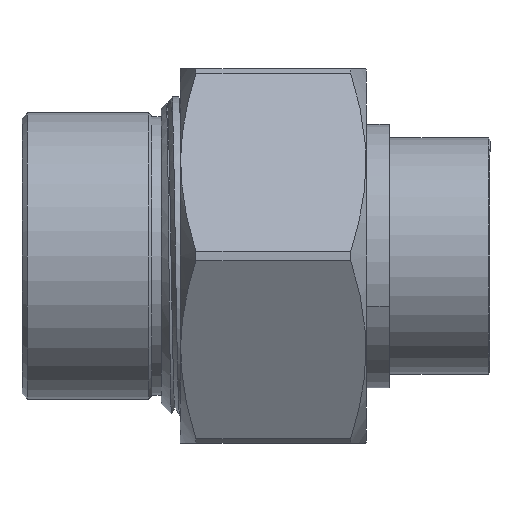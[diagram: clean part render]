
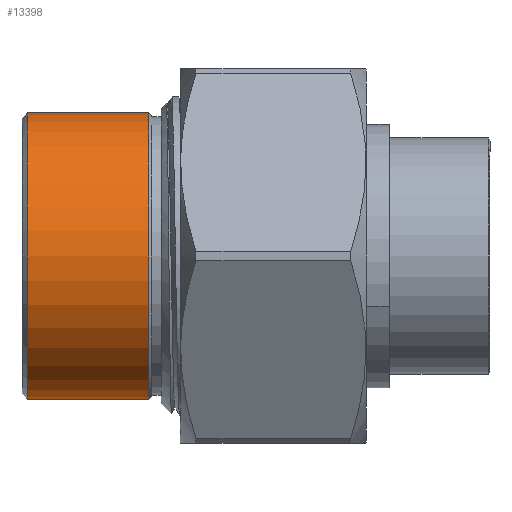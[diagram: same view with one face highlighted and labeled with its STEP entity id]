
A CAD part, front view. The second image highlights one B-rep face of the part: STEP entity #13398.
In plain terms, the highlighted cylindrical face has radius 15.75 mm (diameter 31.5 mm), a partial arc.
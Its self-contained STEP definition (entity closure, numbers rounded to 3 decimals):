
#7678 = VERTEX_POINT('',#7679);
#7679 = CARTESIAN_POINT('',(-107.899,12.679,27.86));
#7693 = CONICAL_SURFACE('',#7694,15.75,0.785);
#7694 = AXIS2_PLACEMENT_3D('',#7695,#7696,#7697);
#7695 = CARTESIAN_POINT('',(-107.899,12.679,12.11));
#7696 = DIRECTION('',(1.,0.,0.));
#7697 = DIRECTION('',(0.,0.,-1.));
#7706 = VERTEX_POINT('',#7707);
#7707 = CARTESIAN_POINT('',(-107.899,12.679,-3.64));
#7722 = CYLINDRICAL_SURFACE('',#7723,15.75);
#7723 = AXIS2_PLACEMENT_3D('',#7724,#7725,#7726);
#7724 = CARTESIAN_POINT('',(-61.304,12.679,12.11));
#7725 = DIRECTION('',(1.,0.,0.));
#7726 = DIRECTION('',(0.,0.,-1.));
#9546 = VERTEX_POINT('',#9547);
#9547 = CARTESIAN_POINT('',(-94.574,12.679,-3.64));
#9561 = CONICAL_SURFACE('',#9562,15.75,0.877);
#9562 = AXIS2_PLACEMENT_3D('',#9563,#9564,#9565);
#9563 = CARTESIAN_POINT('',(-94.574,12.679,12.11));
#9564 = DIRECTION('',(-1.,0.,0.));
#9565 = DIRECTION('',(0.,0.,1.));
#9574 = VERTEX_POINT('',#9575);
#9575 = CARTESIAN_POINT('',(-94.574,12.679,27.86));
#9622 = EDGE_CURVE('',#7678,#9574,#9623,.T.);
#9623 = SURFACE_CURVE('',#9624,(#9628,#9635),.PCURVE_S1.);
#9624 = LINE('',#9625,#9626);
#9625 = CARTESIAN_POINT('',(-61.304,12.679,27.86));
#9626 = VECTOR('',#9627,1.);
#9627 = DIRECTION('',(1.,0.,0.));
#9628 = PCURVE('',#7722,#9629);
#9629 = DEFINITIONAL_REPRESENTATION('',(#9630),#9634);
#9630 = LINE('',#9631,#9632);
#9631 = CARTESIAN_POINT('',(3.142,0.));
#9632 = VECTOR('',#9633,1.);
#9633 = DIRECTION('',(0.,1.));
#9634 = ( GEOMETRIC_REPRESENTATION_CONTEXT(2) 
PARAMETRIC_REPRESENTATION_CONTEXT() REPRESENTATION_CONTEXT('2D SPACE',''
  ) );
#9635 = PCURVE('',#9636,#9641);
#9636 = CYLINDRICAL_SURFACE('',#9637,15.75);
#9637 = AXIS2_PLACEMENT_3D('',#9638,#9639,#9640);
#9638 = CARTESIAN_POINT('',(-61.304,12.679,12.11));
#9639 = DIRECTION('',(1.,0.,0.));
#9640 = DIRECTION('',(0.,0.,-1.));
#9641 = DEFINITIONAL_REPRESENTATION('',(#9642),#9646);
#9642 = LINE('',#9643,#9644);
#9643 = CARTESIAN_POINT('',(3.142,0.));
#9644 = VECTOR('',#9645,1.);
#9645 = DIRECTION('',(0.,1.));
#9646 = ( GEOMETRIC_REPRESENTATION_CONTEXT(2) 
PARAMETRIC_REPRESENTATION_CONTEXT() REPRESENTATION_CONTEXT('2D SPACE',''
  ) );
#9649 = EDGE_CURVE('',#7706,#9546,#9650,.T.);
#9650 = SURFACE_CURVE('',#9651,(#9655,#9662),.PCURVE_S1.);
#9651 = LINE('',#9652,#9653);
#9652 = CARTESIAN_POINT('',(-61.304,12.679,-3.64));
#9653 = VECTOR('',#9654,1.);
#9654 = DIRECTION('',(1.,0.,0.));
#9655 = PCURVE('',#7722,#9656);
#9656 = DEFINITIONAL_REPRESENTATION('',(#9657),#9661);
#9657 = LINE('',#9658,#9659);
#9658 = CARTESIAN_POINT('',(0.,0.));
#9659 = VECTOR('',#9660,1.);
#9660 = DIRECTION('',(0.,1.));
#9661 = ( GEOMETRIC_REPRESENTATION_CONTEXT(2) 
PARAMETRIC_REPRESENTATION_CONTEXT() REPRESENTATION_CONTEXT('2D SPACE',''
  ) );
#9662 = PCURVE('',#9636,#9663);
#9663 = DEFINITIONAL_REPRESENTATION('',(#9664),#9668);
#9664 = LINE('',#9665,#9666);
#9665 = CARTESIAN_POINT('',(6.283,0.));
#9666 = VECTOR('',#9667,1.);
#9667 = DIRECTION('',(0.,1.));
#9668 = ( GEOMETRIC_REPRESENTATION_CONTEXT(2) 
PARAMETRIC_REPRESENTATION_CONTEXT() REPRESENTATION_CONTEXT('2D SPACE',''
  ) );
#13398 = ADVANCED_FACE('',(#13399),#9636,.T.);
#13399 = FACE_BOUND('',#13400,.T.);
#13400 = EDGE_LOOP('',(#13401,#13402,#13424,#13425));
#13401 = ORIENTED_EDGE('',*,*,#9622,.F.);
#13402 = ORIENTED_EDGE('',*,*,#13403,.T.);
#13403 = EDGE_CURVE('',#7678,#7706,#13404,.T.);
#13404 = SURFACE_CURVE('',#13405,(#13410,#13417),.PCURVE_S1.);
#13405 = CIRCLE('',#13406,15.75);
#13406 = AXIS2_PLACEMENT_3D('',#13407,#13408,#13409);
#13407 = CARTESIAN_POINT('',(-107.899,12.679,12.11));
#13408 = DIRECTION('',(1.,0.,0.));
#13409 = DIRECTION('',(0.,0.,-1.));
#13410 = PCURVE('',#9636,#13411);
#13411 = DEFINITIONAL_REPRESENTATION('',(#13412),#13416);
#13412 = LINE('',#13413,#13414);
#13413 = CARTESIAN_POINT('',(0.,-46.596));
#13414 = VECTOR('',#13415,1.);
#13415 = DIRECTION('',(1.,0.));
#13416 = ( GEOMETRIC_REPRESENTATION_CONTEXT(2) 
PARAMETRIC_REPRESENTATION_CONTEXT() REPRESENTATION_CONTEXT('2D SPACE',''
  ) );
#13417 = PCURVE('',#7693,#13418);
#13418 = DEFINITIONAL_REPRESENTATION('',(#13419),#13423);
#13419 = LINE('',#13420,#13421);
#13420 = CARTESIAN_POINT('',(0.,0.));
#13421 = VECTOR('',#13422,1.);
#13422 = DIRECTION('',(1.,0.));
#13423 = ( GEOMETRIC_REPRESENTATION_CONTEXT(2) 
PARAMETRIC_REPRESENTATION_CONTEXT() REPRESENTATION_CONTEXT('2D SPACE',''
  ) );
#13424 = ORIENTED_EDGE('',*,*,#9649,.T.);
#13425 = ORIENTED_EDGE('',*,*,#13426,.F.);
#13426 = EDGE_CURVE('',#9574,#9546,#13427,.T.);
#13427 = SURFACE_CURVE('',#13428,(#13433,#13440),.PCURVE_S1.);
#13428 = CIRCLE('',#13429,15.75);
#13429 = AXIS2_PLACEMENT_3D('',#13430,#13431,#13432);
#13430 = CARTESIAN_POINT('',(-94.574,12.679,12.11));
#13431 = DIRECTION('',(1.,0.,0.));
#13432 = DIRECTION('',(0.,0.,-1.));
#13433 = PCURVE('',#9636,#13434);
#13434 = DEFINITIONAL_REPRESENTATION('',(#13435),#13439);
#13435 = LINE('',#13436,#13437);
#13436 = CARTESIAN_POINT('',(0.,-33.27));
#13437 = VECTOR('',#13438,1.);
#13438 = DIRECTION('',(1.,0.));
#13439 = ( GEOMETRIC_REPRESENTATION_CONTEXT(2) 
PARAMETRIC_REPRESENTATION_CONTEXT() REPRESENTATION_CONTEXT('2D SPACE',''
  ) );
#13440 = PCURVE('',#9561,#13441);
#13441 = DEFINITIONAL_REPRESENTATION('',(#13442),#13446);
#13442 = LINE('',#13443,#13444);
#13443 = CARTESIAN_POINT('',(9.425,0.));
#13444 = VECTOR('',#13445,1.);
#13445 = DIRECTION('',(-1.,0.));
#13446 = ( GEOMETRIC_REPRESENTATION_CONTEXT(2) 
PARAMETRIC_REPRESENTATION_CONTEXT() REPRESENTATION_CONTEXT('2D SPACE',''
  ) );
